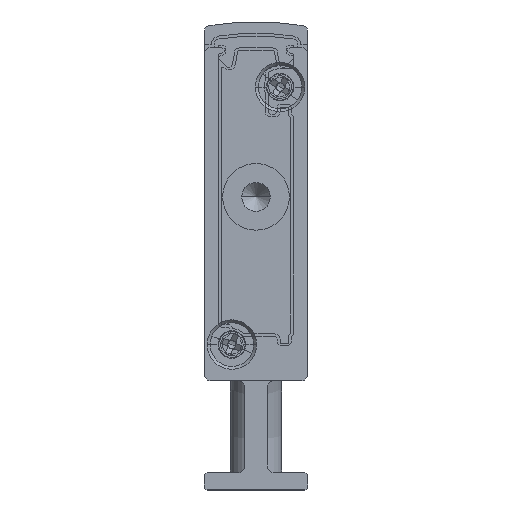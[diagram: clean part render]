
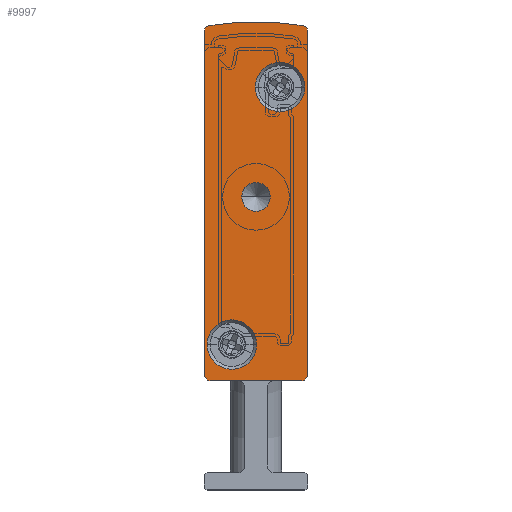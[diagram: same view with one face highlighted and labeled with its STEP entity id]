
A CAD part, front view. The second image highlights one B-rep face of the part: STEP entity #9997.
In plain terms, the highlighted planar face has unit normal (0, -1, 0).
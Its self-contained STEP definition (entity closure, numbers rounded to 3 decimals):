
#427 = DIRECTION ( 'NONE',  ( 0., 1., 0. ) ) ;
#448 = DIRECTION ( 'NONE',  ( 1., 0., 0. ) ) ;
#635 = CARTESIAN_POINT ( 'NONE',  ( 2.4, -2.5, 12.65 ) ) ;
#684 = CARTESIAN_POINT ( 'NONE',  ( 2.4, -2.5, 12.65 ) ) ;
#721 = VERTEX_POINT ( 'NONE', #2111 ) ;
#956 = DIRECTION ( 'NONE',  ( 1., 0., 0. ) ) ;
#1083 = CARTESIAN_POINT ( 'NONE',  ( 3.25, -2.5, 25.5 ) ) ;
#1248 = CARTESIAN_POINT ( 'NONE',  ( 8.5, -2.5, 39.902 ) ) ;
#1279 = CARTESIAN_POINT ( 'NONE',  ( 0.408, -2.5, 40.393 ) ) ;
#1307 = ORIENTED_EDGE ( 'NONE', *, *, #6443, .T. ) ;
#1310 = DIRECTION ( 'NONE',  ( 0., 1., 0. ) ) ;
#1323 = EDGE_CURVE ( 'NONE', #1670, #5521, #8067, .T. ) ;
#1347 = AXIS2_PLACEMENT_3D ( 'NONE', #635, #5066, #448 ) ;
#1377 = DIRECTION ( 'NONE',  ( -1., 0., 0. ) ) ;
#1473 = EDGE_CURVE ( 'NONE', #18845, #18171, #14364, .T. ) ;
#1514 = DIRECTION ( 'NONE',  ( 0., 0., -1. ) ) ;
#1641 = CARTESIAN_POINT ( 'NONE',  ( 9., -2.5, 39.902 ) ) ;
#1657 = FACE_BOUND ( 'NONE', #10194, .T. ) ;
#1670 = VERTEX_POINT ( 'NONE', #12513 ) ;
#1756 = DIRECTION ( 'NONE',  ( -1., 0., 0. ) ) ;
#1782 = VERTEX_POINT ( 'NONE', #8420 ) ;
#1859 = VERTEX_POINT ( 'NONE', #17580 ) ;
#2111 = CARTESIAN_POINT ( 'NONE',  ( 8.75, -2.5, 35.05 ) ) ;
#2367 = ORIENTED_EDGE ( 'NONE', *, *, #8991, .F. ) ;
#2417 = DIRECTION ( 'NONE',  ( 0., 1., 0. ) ) ;
#2539 = CARTESIAN_POINT ( 'NONE',  ( 0.5, -2.5, 9.5 ) ) ;
#2628 = CIRCLE ( 'NONE', #13260, 2.15 ) ;
#2646 = VECTOR ( 'NONE', #1514, 1000. ) ;
#2986 = ORIENTED_EDGE ( 'NONE', *, *, #1473, .F. ) ;
#3087 = CIRCLE ( 'NONE', #9998, 0.5 ) ;
#3155 = EDGE_CURVE ( 'NONE', #8838, #11858, #16154, .T. ) ;
#3231 = VERTEX_POINT ( 'NONE', #17492 ) ;
#3390 = ORIENTED_EDGE ( 'NONE', *, *, #3155, .F. ) ;
#3417 = DIRECTION ( 'NONE',  ( -1., 0., 0. ) ) ;
#3780 = DIRECTION ( 'NONE',  ( -1., 0., 0. ) ) ;
#3874 = DIRECTION ( 'NONE',  ( -1., 0., 0. ) ) ;
#3959 = VERTEX_POINT ( 'NONE', #1641 ) ;
#3983 = EDGE_CURVE ( 'NONE', #3231, #18845, #13452, .T. ) ;
#4291 = CARTESIAN_POINT ( 'NONE',  ( 8.5, -2.5, 9.5 ) ) ;
#4459 = ORIENTED_EDGE ( 'NONE', *, *, #7748, .F. ) ;
#4513 = CARTESIAN_POINT ( 'NONE',  ( 6.6, -2.5, 35.05 ) ) ;
#4712 = ORIENTED_EDGE ( 'NONE', *, *, #9179, .F. ) ;
#4996 = EDGE_CURVE ( 'NONE', #10001, #3959, #15916, .T. ) ;
#5066 = DIRECTION ( 'NONE',  ( 0., -1., 0. ) ) ;
#5104 = CARTESIAN_POINT ( 'NONE',  ( 0., -2.5, 10. ) ) ;
#5521 = VERTEX_POINT ( 'NONE', #1083 ) ;
#6309 = CARTESIAN_POINT ( 'NONE',  ( 0.5, -2.5, 9.5 ) ) ;
#6443 = EDGE_CURVE ( 'NONE', #5521, #1670, #11259, .T. ) ;
#6638 = EDGE_CURVE ( 'NONE', #13011, #8838, #14586, .T. ) ;
#6787 = DIRECTION ( 'NONE',  ( 1., 0., 0. ) ) ;
#6992 = DIRECTION ( 'NONE',  ( -1., 0., 0. ) ) ;
#7025 = CARTESIAN_POINT ( 'NONE',  ( 4.55, -2.5, 12.65 ) ) ;
#7029 = CIRCLE ( 'NONE', #1347, 2.15 ) ;
#7488 = AXIS2_PLACEMENT_3D ( 'NONE', #11350, #17519, #15859 ) ;
#7635 = DIRECTION ( 'NONE',  ( 1., 0., 0. ) ) ;
#7748 = EDGE_CURVE ( 'NONE', #1782, #13590, #7029, .T. ) ;
#7798 = FACE_OUTER_BOUND ( 'NONE', #16575, .T. ) ;
#7991 = DIRECTION ( 'NONE',  ( 0., 1., 0. ) ) ;
#8067 = CIRCLE ( 'NONE', #13195, 1.25 ) ;
#8365 = DIRECTION ( 'NONE',  ( 0., -1., 0. ) ) ;
#8420 = CARTESIAN_POINT ( 'NONE',  ( 0.25, -2.5, 12.65 ) ) ;
#8660 = EDGE_CURVE ( 'NONE', #11858, #10001, #14525, .T. ) ;
#8838 = VERTEX_POINT ( 'NONE', #11894 ) ;
#8918 = DIRECTION ( 'NONE',  ( 0., 1., 0. ) ) ;
#8991 = EDGE_CURVE ( 'NONE', #3959, #3231, #10017, .T. ) ;
#9139 = VECTOR ( 'NONE', #17116, 1000. ) ;
#9147 = ORIENTED_EDGE ( 'NONE', *, *, #8660, .F. ) ;
#9179 = EDGE_CURVE ( 'NONE', #13590, #1782, #14969, .T. ) ;
#9202 = CARTESIAN_POINT ( 'NONE',  ( 9., -2.5, 39.902 ) ) ;
#9387 = AXIS2_PLACEMENT_3D ( 'NONE', #15600, #427, #13812 ) ;
#9416 = VECTOR ( 'NONE', #1756, 1000. ) ;
#9460 = EDGE_CURVE ( 'NONE', #721, #1859, #2628, .T. ) ;
#9963 = EDGE_LOOP ( 'NONE', ( #13896, #12586 ) ) ;
#9997 = ADVANCED_FACE ( 'NONE', ( #17317, #18958, #7798, #1657 ), #15597, .F. ) ;
#9998 = AXIS2_PLACEMENT_3D ( 'NONE', #18796, #12861, #3780 ) ;
#10001 = VERTEX_POINT ( 'NONE', #18655 ) ;
#10009 = AXIS2_PLACEMENT_3D ( 'NONE', #12491, #7991, #3417 ) ;
#10017 = LINE ( 'NONE', #9202, #2646 ) ;
#10194 = EDGE_LOOP ( 'NONE', ( #1307, #14912 ) ) ;
#10821 = ORIENTED_EDGE ( 'NONE', *, *, #6638, .F. ) ;
#10968 = CIRCLE ( 'NONE', #15064, 2.15 ) ;
#11186 = ORIENTED_EDGE ( 'NONE', *, *, #3983, .F. ) ;
#11198 = CARTESIAN_POINT ( 'NONE',  ( 0., -2.5, 39.902 ) ) ;
#11259 = CIRCLE ( 'NONE', #19465, 1.25 ) ;
#11350 = CARTESIAN_POINT ( 'NONE',  ( 0.5, -2.5, 39.902 ) ) ;
#11456 = DIRECTION ( 'NONE',  ( 0., 1., 0. ) ) ;
#11746 = CARTESIAN_POINT ( 'NONE',  ( 4.5, -2.5, 25.5 ) ) ;
#11798 = EDGE_LOOP ( 'NONE', ( #4712, #4459 ) ) ;
#11858 = VERTEX_POINT ( 'NONE', #1279 ) ;
#11894 = CARTESIAN_POINT ( 'NONE',  ( 0., -2.5, 39.902 ) ) ;
#11996 = CARTESIAN_POINT ( 'NONE',  ( 4.5, -2.5, 25.5 ) ) ;
#12491 = CARTESIAN_POINT ( 'NONE',  ( 4.5, -2.5, 17.092 ) ) ;
#12513 = CARTESIAN_POINT ( 'NONE',  ( 5.75, -2.5, 25.5 ) ) ;
#12586 = ORIENTED_EDGE ( 'NONE', *, *, #12806, .F. ) ;
#12806 = EDGE_CURVE ( 'NONE', #1859, #721, #10968, .T. ) ;
#12861 = DIRECTION ( 'NONE',  ( 0., 1., 0. ) ) ;
#13011 = VERTEX_POINT ( 'NONE', #5104 ) ;
#13195 = AXIS2_PLACEMENT_3D ( 'NONE', #11746, #2417, #6992 ) ;
#13260 = AXIS2_PLACEMENT_3D ( 'NONE', #15995, #17593, #956 ) ;
#13452 = CIRCLE ( 'NONE', #9387, 0.5 ) ;
#13590 = VERTEX_POINT ( 'NONE', #7025 ) ;
#13812 = DIRECTION ( 'NONE',  ( -1., 0., 0. ) ) ;
#13896 = ORIENTED_EDGE ( 'NONE', *, *, #9460, .F. ) ;
#14364 = LINE ( 'NONE', #6309, #9416 ) ;
#14525 = CIRCLE ( 'NONE', #10009, 23.658 ) ;
#14586 = LINE ( 'NONE', #11198, #9139 ) ;
#14912 = ORIENTED_EDGE ( 'NONE', *, *, #1323, .T. ) ;
#14969 = CIRCLE ( 'NONE', #17706, 2.15 ) ;
#15001 = DIRECTION ( 'NONE',  ( -1., 0., 0. ) ) ;
#15064 = AXIS2_PLACEMENT_3D ( 'NONE', #4513, #19586, #7635 ) ;
#15597 = PLANE ( 'NONE',  #7488 ) ;
#15600 = CARTESIAN_POINT ( 'NONE',  ( 8.5, -2.5, 10. ) ) ;
#15859 = DIRECTION ( 'NONE',  ( -1., 0., 0. ) ) ;
#15916 = CIRCLE ( 'NONE', #17398, 0.5 ) ;
#15966 = CARTESIAN_POINT ( 'NONE',  ( 0.5, -2.5, 39.902 ) ) ;
#15995 = CARTESIAN_POINT ( 'NONE',  ( 6.6, -2.5, 35.05 ) ) ;
#16154 = CIRCLE ( 'NONE', #17705, 0.5 ) ;
#16575 = EDGE_LOOP ( 'NONE', ( #3390, #10821, #17000, #2986, #11186, #2367, #19051, #9147 ) ) ;
#17000 = ORIENTED_EDGE ( 'NONE', *, *, #18099, .F. ) ;
#17116 = DIRECTION ( 'NONE',  ( 0., 0., 1. ) ) ;
#17317 = FACE_BOUND ( 'NONE', #9963, .T. ) ;
#17398 = AXIS2_PLACEMENT_3D ( 'NONE', #1248, #1310, #1377 ) ;
#17492 = CARTESIAN_POINT ( 'NONE',  ( 9., -2.5, 10. ) ) ;
#17519 = DIRECTION ( 'NONE',  ( 0., 1., 0. ) ) ;
#17580 = CARTESIAN_POINT ( 'NONE',  ( 4.45, -2.5, 35.05 ) ) ;
#17593 = DIRECTION ( 'NONE',  ( 0., -1., 0. ) ) ;
#17705 = AXIS2_PLACEMENT_3D ( 'NONE', #15966, #11456, #3874 ) ;
#17706 = AXIS2_PLACEMENT_3D ( 'NONE', #684, #8365, #6787 ) ;
#18099 = EDGE_CURVE ( 'NONE', #18171, #13011, #3087, .T. ) ;
#18171 = VERTEX_POINT ( 'NONE', #2539 ) ;
#18655 = CARTESIAN_POINT ( 'NONE',  ( 8.592, -2.5, 40.393 ) ) ;
#18796 = CARTESIAN_POINT ( 'NONE',  ( 0.5, -2.5, 10. ) ) ;
#18845 = VERTEX_POINT ( 'NONE', #4291 ) ;
#18958 = FACE_BOUND ( 'NONE', #11798, .T. ) ;
#19051 = ORIENTED_EDGE ( 'NONE', *, *, #4996, .F. ) ;
#19465 = AXIS2_PLACEMENT_3D ( 'NONE', #11996, #8918, #15001 ) ;
#19586 = DIRECTION ( 'NONE',  ( 0., -1., 0. ) ) ;
